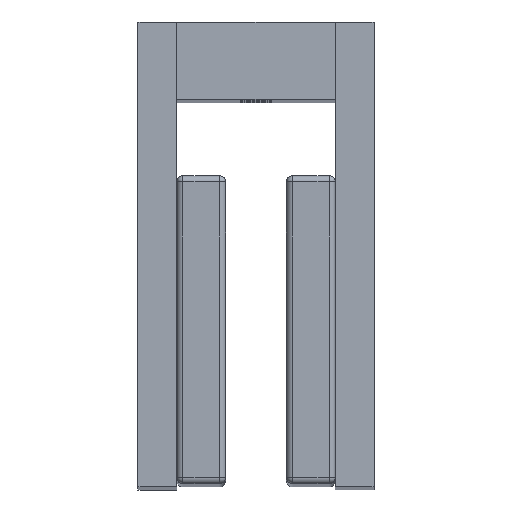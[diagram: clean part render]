
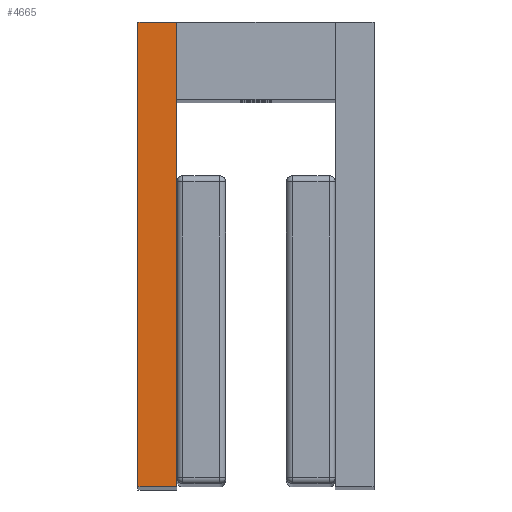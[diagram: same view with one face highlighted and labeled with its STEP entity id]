
A CAD part, top view. The second image highlights one B-rep face of the part: STEP entity #4665.
In plain terms, the highlighted planar face has unit normal (0, 0, 1) as drawn and (-1, 0, 0) by its records, which use the part's own axes.
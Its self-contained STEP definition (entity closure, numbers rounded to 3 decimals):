
#274 = AXIS2_PLACEMENT_3D ( 'NONE', #18287, #19940, #9683 ) ;
#2082 = DIRECTION ( 'NONE',  ( 0., 0., -1. ) ) ;
#2813 = VERTEX_POINT ( 'NONE', #21879 ) ;
#2855 = VECTOR ( 'NONE', #17844, 1000. ) ;
#3594 = EDGE_CURVE ( 'NONE', #6777, #20337, #7992, .T. ) ;
#3982 = CARTESIAN_POINT ( 'NONE',  ( 0., 0., 6.35 ) ) ;
#4131 = CARTESIAN_POINT ( 'NONE',  ( 0., 76.2, 6.35 ) ) ;
#4361 = LINE ( 'NONE', #7010, #5445 ) ;
#4665 = ADVANCED_FACE ( 'NONE', ( #6541 ), #6175, .F. ) ;
#5445 = VECTOR ( 'NONE', #6861, 1000. ) ;
#5522 = CARTESIAN_POINT ( 'NONE',  ( 0., 0., 6.35 ) ) ;
#6175 = PLANE ( 'NONE',  #274 ) ;
#6231 = EDGE_CURVE ( 'NONE', #9466, #2813, #4361, .T. ) ;
#6331 = EDGE_CURVE ( 'NONE', #20337, #2813, #6793, .T. ) ;
#6541 = FACE_OUTER_BOUND ( 'NONE', #9817, .T. ) ;
#6777 = VERTEX_POINT ( 'NONE', #15536 ) ;
#6793 = LINE ( 'NONE', #5522, #10859 ) ;
#6861 = DIRECTION ( 'NONE',  ( 0., -1., 0. ) ) ;
#7010 = CARTESIAN_POINT ( 'NONE',  ( 0., 0., 0. ) ) ;
#7068 = EDGE_CURVE ( 'NONE', #6777, #9466, #14643, .T. ) ;
#7992 = LINE ( 'NONE', #3982, #2855 ) ;
#9466 = VERTEX_POINT ( 'NONE', #13733 ) ;
#9683 = DIRECTION ( 'NONE',  ( 0., 0., -1. ) ) ;
#9817 = EDGE_LOOP ( 'NONE', ( #16022, #14937, #13854, #13258 ) ) ;
#10859 = VECTOR ( 'NONE', #2082, 1000. ) ;
#13258 = ORIENTED_EDGE ( 'NONE', *, *, #7068, .T. ) ;
#13733 = CARTESIAN_POINT ( 'NONE',  ( 0., 76.2, 0. ) ) ;
#13854 = ORIENTED_EDGE ( 'NONE', *, *, #3594, .F. ) ;
#14129 = CARTESIAN_POINT ( 'NONE',  ( 0., 0., 6.35 ) ) ;
#14528 = DIRECTION ( 'NONE',  ( 0., 0., -1. ) ) ;
#14643 = LINE ( 'NONE', #4131, #18641 ) ;
#14937 = ORIENTED_EDGE ( 'NONE', *, *, #6331, .F. ) ;
#15536 = CARTESIAN_POINT ( 'NONE',  ( 0., 76.2, 6.35 ) ) ;
#16022 = ORIENTED_EDGE ( 'NONE', *, *, #6231, .T. ) ;
#17844 = DIRECTION ( 'NONE',  ( 0., -1., 0. ) ) ;
#18287 = CARTESIAN_POINT ( 'NONE',  ( 0., 0., 6.35 ) ) ;
#18641 = VECTOR ( 'NONE', #14528, 1000. ) ;
#19940 = DIRECTION ( 'NONE',  ( 1., 0., 0. ) ) ;
#20337 = VERTEX_POINT ( 'NONE', #14129 ) ;
#21879 = CARTESIAN_POINT ( 'NONE',  ( 0., 0., 0. ) ) ;
